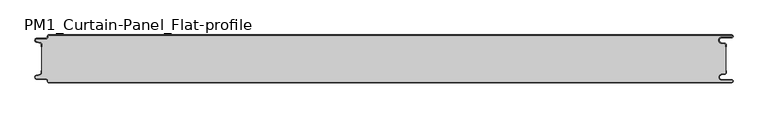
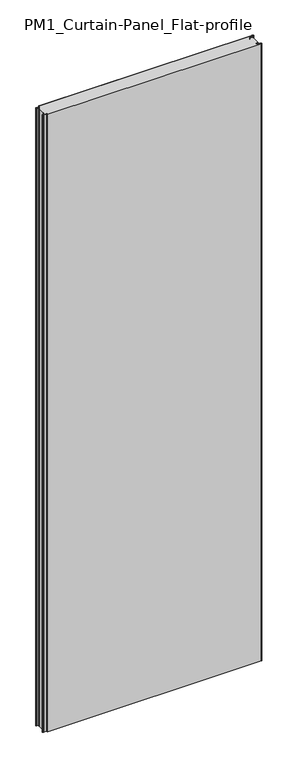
"""IFC4 building model written with IfcOpenShell, lengths in millimetres: plate geometry, PM1_Curtain-Panel_Flat-profile : ACH_PM1_Acoustic-Sectioning-Panel_80M."""

from ifc_helpers import new_model, si_unit, point, frame, frame_2d, origin, origin_with_axes, place, context, project, spatial, polyline, circle_curve, trimmed, segment, composite_curve, outline, extrude, source, transform, mapped, element, save
from ifc_brep_helpers import plane_surface, cylinder_surface, revolved_surface, advanced_brep


def pm1_curtain_panel_flat_profile_d00d88be(model_context):
    return source(origin(), model_context, "Body", "SolidModel", [
        advanced_brep(
        [(583.1, 0.0, 3500.0), (-562.4, 0.0, 3500.0), (-564.4, -2.0, 3500.0), (-564.4, -3.4, 3500.0), (-566.4, -5.4, 3500.0), (-581.9, -5.4, 3500.0), (-582.7098239, -12.5077322, 3500.0), (-576.5500979, -13.929817, 3500.0), (-575.0, -15.878557, 3500.0), (-575.0, -20.0, 3500.0), (-574.2, -20.0, 3500.0), (-574.2, -15.878557, 3500.0), (-576.370137, -13.1503208, 3500.0), (-582.529863, -11.728236, 3500.0), (-581.9, -6.2, 3500.0), (-566.4, -6.2, 3500.0), (-563.6, -3.4, 3500.0), (-563.6, -2.0, 3500.0), (-562.4, -0.8, 3500.0), (583.1, -0.8, 3500.0), (583.1, -4.2, 3500.0), (566.1, -4.2, 3500.0), (565.266489, -13.7270773, 3500.0), (571.7125666, -14.8636942, 3500.0), (573.2, -16.636348, 3500.0), (573.2, -20.0, 3500.0), (574.0, -20.0, 3500.0), (574.0, -16.636348, 3500.0), (571.8514851, -14.0758478, 3500.0), (565.4054075, -12.9392309, 3500.0), (566.1, -5.0, 3500.0), (583.1, -5.0, 3500.0), (585.6, -2.5, 3500.0), (-562.4, 0.0, 0.0), (583.1, 0.0, 0.0), (585.6, -2.5, 0.0), (583.1, -5.0, 0.0), (566.1, -5.0, 0.0), (565.4054075, -12.939231, 0.0), (571.8514851, -14.075848, 0.0), (574.0, -16.636348, 0.0), (574.0, -20.0, 0.0), (573.2, -20.0, 0.0), (573.2, -16.636348, 0.0), (571.7125666, -14.863694, 0.0), (565.266489, -13.7270771, 0.0), (566.1, -4.2, 0.0), (583.1, -4.2, 0.0), (583.1, -0.8, 0.0), (-562.4, -0.8, 0.0), (-563.6, -2.0, 0.0), (-563.6, -3.4, 0.0), (-566.4, -6.2, 0.0), (-581.9, -6.2, 0.0), (-582.529863, -11.7282362, 0.0), (-576.370137, -13.150321, 0.0), (-574.2, -15.878557, 0.0), (-574.2, -20.0, 0.0), (-575.0, -20.0, 0.0), (-575.0, -15.878557, 0.0), (-576.5500978, -13.9298169, 0.0), (-582.7098239, -12.507732, 0.0), (-581.9, -5.4, 0.0), (-566.4, -5.4, 0.0), (-564.4, -3.4, 0.0), (-564.4, -2.0, 0.0)],
        [
            (0, 1),
            (1, 2, circle_curve(frame((-562.4, -2.0, 3500.0), z_axis=(0.0, 0.0, 1.0), x_axis=(1.0, 0.0, 0.0)), 2.0)),
            (2, 3),
            (3, 4, circle_curve(frame((-566.4, -3.4, 3500.0), z_axis=(0.0, 0.0, -1.0), x_axis=(1.0, 0.0, 0.0)), 2.0)),
            (4, 5),
            (5, 6, circle_curve(frame((-581.9, -9.0, 3500.0), z_axis=(0.0, 0.0, 1.0), x_axis=(1.0, 0.0, 0.0)), 3.6)),
            (6, 7),
            (7, 8, circle_curve(frame((-577.0, -15.878557, 3500.0), z_axis=(0.0, 0.0, -1.0), x_axis=(1.0, 0.0, 0.0)), 2.0)),
            (8, 9),
            (9, 10),
            (10, 11),
            (11, 12, circle_curve(frame((-577.0, -15.878557, 3500.0), z_axis=(0.0, 0.0, 1.0), x_axis=(1.0, 0.0, 0.0)), 2.8)),
            (12, 13),
            (13, 14, circle_curve(frame((-581.9, -9.0, 3500.0), z_axis=(0.0, 0.0, -1.0), x_axis=(1.0, 0.0, 0.0)), 2.8)),
            (14, 15),
            (15, 16, circle_curve(frame((-566.4, -3.4, 3500.0), z_axis=(0.0, 0.0, 1.0), x_axis=(1.0, 0.0, 0.0)), 2.8)),
            (16, 17),
            (17, 18, circle_curve(frame((-562.4, -2.0, 3500.0), z_axis=(0.0, 0.0, -1.0), x_axis=(1.0, 0.0, 0.0)), 1.2)),
            (18, 19),
            (19, 20, circle_curve(frame((583.1, -2.5, 3500.0), z_axis=(0.0, 0.0, -1.0), x_axis=(1.0, 0.0, 0.0)), 1.7)),
            (20, 21),
            (21, 22, circle_curve(frame((566.1, -9.0, 3500.0), z_axis=(0.0, 0.0, 1.0), x_axis=(1.0, 0.0, 0.0)), 4.8)),
            (22, 23),
            (23, 24, circle_curve(frame((571.4, -16.636348, 3500.0), z_axis=(0.0, 0.0, -1.0), x_axis=(1.0, 0.0, 0.0)), 1.8)),
            (24, 25),
            (25, 26),
            (26, 27),
            (27, 28, circle_curve(frame((571.4, -16.636348, 3500.0), z_axis=(0.0, 0.0, 1.0), x_axis=(1.0, 0.0, 0.0)), 2.6)),
            (28, 29),
            (29, 30, circle_curve(frame((566.1, -9.0, 3500.0), z_axis=(0.0, 0.0, -1.0), x_axis=(1.0, 0.0, 0.0)), 4.0)),
            (30, 31),
            (31, 32, circle_curve(frame((583.1, -2.5, 3500.0), z_axis=(0.0, 0.0, 1.0), x_axis=(1.0, 0.0, 0.0)), 2.5)),
            (32, 0, circle_curve(frame((583.1, -2.5, 3500.0), z_axis=(0.0, 0.0, 1.0), x_axis=(1.0, 0.0, 0.0)), 2.5)),
            (33, 34),
            (34, 35, circle_curve(frame((583.1, -2.5, 0.0), z_axis=(0.0, 0.0, -1.0), x_axis=(1.0, 0.0, 0.0)), 2.5)),
            (35, 36, circle_curve(frame((583.1, -2.5, 0.0), z_axis=(0.0, 0.0, -1.0), x_axis=(1.0, 0.0, 0.0)), 2.5)),
            (36, 37),
            (37, 38, circle_curve(frame((566.1, -9.0, 0.0), z_axis=(0.0, 0.0, 1.0), x_axis=(1.0, 0.0, 0.0)), 4.0)),
            (38, 39),
            (39, 40, circle_curve(frame((571.4, -16.636348, 0.0), z_axis=(0.0, 0.0, -1.0), x_axis=(1.0, 0.0, 0.0)), 2.6)),
            (40, 41),
            (41, 42),
            (42, 43),
            (43, 44, circle_curve(frame((571.4, -16.636348, 0.0), z_axis=(0.0, 0.0, 1.0), x_axis=(1.0, 0.0, 0.0)), 1.8)),
            (44, 45),
            (45, 46, circle_curve(frame((566.1, -9.0, 0.0), z_axis=(0.0, 0.0, -1.0), x_axis=(1.0, 0.0, 0.0)), 4.8)),
            (46, 47),
            (47, 48, circle_curve(frame((583.1, -2.5, 0.0), z_axis=(0.0, 0.0, 1.0), x_axis=(1.0, 0.0, 0.0)), 1.7)),
            (48, 49),
            (49, 50, circle_curve(frame((-562.4, -2.0, 0.0), z_axis=(0.0, 0.0, 1.0), x_axis=(1.0, 0.0, 0.0)), 1.2)),
            (50, 51),
            (51, 52, circle_curve(frame((-566.4, -3.4, 0.0), z_axis=(0.0, 0.0, -1.0), x_axis=(1.0, 0.0, 0.0)), 2.8)),
            (52, 53),
            (53, 54, circle_curve(frame((-581.9, -9.0, 0.0), z_axis=(0.0, 0.0, 1.0), x_axis=(1.0, 0.0, 0.0)), 2.8)),
            (54, 55),
            (55, 56, circle_curve(frame((-577.0, -15.878557, 0.0), z_axis=(0.0, 0.0, -1.0), x_axis=(1.0, 0.0, 0.0)), 2.8)),
            (56, 57),
            (57, 58),
            (58, 59),
            (59, 60, circle_curve(frame((-577.0, -15.878557, 0.0), z_axis=(0.0, 0.0, 1.0), x_axis=(1.0, 0.0, 0.0)), 2.0)),
            (60, 61),
            (61, 62, circle_curve(frame((-581.9, -9.0, 0.0), z_axis=(0.0, 0.0, -1.0), x_axis=(1.0, 0.0, 0.0)), 3.6)),
            (62, 63),
            (63, 64, circle_curve(frame((-566.4, -3.4, 0.0), z_axis=(0.0, 0.0, 1.0), x_axis=(1.0, 0.0, 0.0)), 2.0)),
            (64, 65),
            (65, 33, circle_curve(frame((-562.4, -2.0, 0.0), z_axis=(0.0, 0.0, -1.0), x_axis=(1.0, 0.0, 0.0)), 2.0)),
            (1, 33),
            (65, 2),
            (64, 3),
            (63, 4),
            (62, 5),
            (61, 6),
            (60, 7),
            (59, 8),
            (58, 9),
            (57, 10),
            (56, 11),
            (55, 12),
            (54, 13),
            (53, 14),
            (52, 15),
            (51, 16),
            (50, 17),
            (49, 18),
            (48, 19),
            (47, 20),
            (46, 21),
            (45, 22),
            (44, 23),
            (43, 24),
            (42, 25),
            (41, 26),
            (40, 27),
            (39, 28),
            (38, 29),
            (37, 30),
            (36, 31),
            (34, 0),
        ],
        [
            plane_surface(frame((-575.0, 0.0, 3500.0), z_axis=(0.0, 0.0, 1.0), x_axis=(0.0, 1.0, 0.0))),
            plane_surface(frame((-575.0, 0.0, 0.0), z_axis=(0.0, 0.0, -1.0), x_axis=(0.0, 1.0, 0.0))),
            cylinder_surface(frame((-562.4, -2.0, 3500.0), z_axis=(0.0, 0.0, 1.0), x_axis=(1.0, 0.0, 0.0)), 2.0),
            plane_surface(frame((-564.4, -2.0, 3500.0), z_axis=(-1.0, 0.0, 0.0), x_axis=(0.0, 0.0, -1.0))),
            revolved_surface(polyline([(-564.4, -3.4, 0.0), (-564.4, -3.4, 3500.0)]), (-566.4, -3.4, 3500.0), (0.0, 0.0, -1.0)),
            plane_surface(frame((-566.4, -5.4, 3500.0), z_axis=(0.0, 1.0, 0.0), x_axis=(0.0, 0.0, -1.0))),
            cylinder_surface(frame((-581.9, -9.0, 3500.0), z_axis=(0.0, 0.0, 1.0), x_axis=(1.0, 0.0, 0.0)), 3.6),
            plane_surface(frame((-582.7098239, -12.507732, 3500.0), z_axis=(-0.2249510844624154, -0.9743700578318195, 0.0), x_axis=(0.0, 0.0, -1.0))),
            revolved_surface(polyline([(-575.0, -15.878557, 0.0), (-575.0, -15.878557, 3500.0)]), (-577.0, -15.878557, 3500.0), (0.0, 0.0, -1.0)),
            plane_surface(frame((-575.0, -15.878557, 3500.0), z_axis=(-1.0, 0.0, 0.0), x_axis=(0.0, 0.0, -1.0))),
            plane_surface(frame((-575.0, -20.0, 3500.0), z_axis=(0.0, -1.0, 0.0), x_axis=(0.0, 0.0, -1.0))),
            plane_surface(frame((-574.2, -20.0, 3500.0), z_axis=(1.0, 0.0, 0.0), x_axis=(0.0, 0.0, -1.0))),
            cylinder_surface(frame((-577.0, -15.878557, 3500.0), z_axis=(0.0, 0.0, 1.0), x_axis=(1.0, 0.0, 0.0)), 2.8),
            plane_surface(frame((-576.370137, -13.150321, 3500.0), z_axis=(0.22495108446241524, 0.9743700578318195, 0.0), x_axis=(0.0, 0.0, -1.0))),
            revolved_surface(polyline([(-579.1, -9.0, 0.0), (-579.1, -9.0, 3500.0)]), (-581.9, -9.0, 3500.0), (0.0, 0.0, -1.0)),
            plane_surface(frame((-581.9, -6.2, 3500.0), z_axis=(0.0, -1.0, 0.0), x_axis=(0.0, 0.0, -1.0))),
            cylinder_surface(frame((-566.4, -3.4, 3500.0), z_axis=(0.0, 0.0, 1.0), x_axis=(1.0, 0.0, 0.0)), 2.8),
            plane_surface(frame((-563.6, -3.4, 3500.0), z_axis=(1.0, 0.0, 0.0), x_axis=(0.0, 0.0, -1.0))),
            revolved_surface(polyline([(-561.1999999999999, -2.0, 0.0), (-561.1999999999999, -2.0, 3500.0)]), (-562.4, -2.0, 3500.0), (0.0, 0.0, -1.0)),
            plane_surface(frame((560.890897, -0.8, 3500.0), z_axis=(0.0, -1.0, 0.0), x_axis=(0.0, 0.0, -1.0))),
            revolved_surface(polyline([(584.8000000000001, -2.5, 0.0), (584.8000000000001, -2.5, 3500.0)]), (583.1, -2.5, 3500.0), (0.0, 0.0, -1.0)),
            plane_surface(frame((583.1, -4.2, 3500.0), z_axis=(0.0, 1.0, 0.0), x_axis=(0.0, 0.0, -1.0))),
            cylinder_surface(frame((566.1, -9.0, 3500.0), z_axis=(0.0, 0.0, 1.0), x_axis=(1.0, 0.0, 0.0)), 4.8),
            plane_surface(frame((565.266489, -13.7270771, 3500.0), z_axis=(-0.1736481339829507, -0.9848077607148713, 0.0), x_axis=(0.0, 0.0, -1.0))),
            revolved_surface(polyline([(573.1999999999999, -16.636348, 0.0), (573.1999999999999, -16.636348, 3500.0)]), (571.4, -16.636348, 3500.0), (0.0, 0.0, -1.0)),
            plane_surface(frame((573.2, -16.636348, 3500.0), z_axis=(-1.0, 0.0, 0.0), x_axis=(0.0, 0.0, -1.0))),
            plane_surface(frame((573.2, -20.0, 3500.0), z_axis=(0.0, -1.0, 0.0), x_axis=(0.0, 0.0, -1.0))),
            plane_surface(frame((574.0, -20.0, 3500.0), z_axis=(1.0, 0.0, 0.0), x_axis=(0.0, 0.0, -1.0))),
            cylinder_surface(frame((571.4, -16.636348, 3500.0), z_axis=(0.0, 0.0, 1.0), x_axis=(1.0, 0.0, 0.0)), 2.6),
            plane_surface(frame((571.8514851, -14.075848, 3500.0), z_axis=(0.17364813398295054, 0.9848077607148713, 0.0), x_axis=(0.0, 0.0, -1.0))),
            revolved_surface(polyline([(570.1, -9.0, 0.0), (570.1, -9.0, 3500.0)]), (566.1, -9.0, 3500.0), (0.0, 0.0, -1.0)),
            plane_surface(frame((566.1, -5.0, 3500.0), z_axis=(0.0, -1.0, 0.0), x_axis=(0.0, 0.0, -1.0))),
            cylinder_surface(frame((583.1, -2.5, 3500.0), z_axis=(0.0, 0.0, 1.0), x_axis=(1.0, 0.0, 0.0)), 2.5),
            plane_surface(frame((510.5961529, 0.0, 3500.0), z_axis=(0.0, 1.0, 0.0), x_axis=(0.0, 0.0, -1.0))),
        ],
        [
            (0, [[1, 2, 3, 4, 5, 6, 7, 8, 9, 10, 11, 12, 13, 14, 15, 16, 17, 18, 19, 20, 21, 22, 23, 24, 25, 26, 27, 28, 29, 30, 31, 32, 33]]),
            (1, [[34, 35, 36, 37, 38, 39, 40, 41, 42, 43, 44, 45, 46, 47, 48, 49, 50, 51, 52, 53, 54, 55, 56, 57, 58, 59, 60, 61, 62, 63, 64, 65, 66]]),
            (2, [[-2, 67, -66, 68]]),
            (3, [[-3, -68, -65, 69]]),
            (4, [[-4, -69, -64, 70]]),
            (5, [[-5, -70, -63, 71]]),
            (6, [[-6, -71, -62, 72]]),
            (7, [[-7, -72, -61, 73]]),
            (8, [[-8, -73, -60, 74]]),
            (9, [[-9, -74, -59, 75]]),
            (10, [[-10, -75, -58, 76]]),
            (11, [[-11, -76, -57, 77]]),
            (12, [[-12, -77, -56, 78]]),
            (13, [[-13, -78, -55, 79]]),
            (14, [[-14, -79, -54, 80]]),
            (15, [[-15, -80, -53, 81]]),
            (16, [[-16, -81, -52, 82]]),
            (17, [[-17, -82, -51, 83]]),
            (18, [[-18, -83, -50, 84]]),
            (19, [[-19, -84, -49, 85]]),
            (20, [[-20, -85, -48, 86]]),
            (21, [[-21, -86, -47, 87]]),
            (22, [[-22, -87, -46, 88]]),
            (23, [[-23, -88, -45, 89]]),
            (24, [[-24, -89, -44, 90]]),
            (25, [[-25, -90, -43, 91]]),
            (26, [[-26, -91, -42, 92]]),
            (27, [[-27, -92, -41, 93]]),
            (28, [[-28, -93, -40, 94]]),
            (29, [[-29, -94, -39, 95]]),
            (30, [[-30, -95, -38, 96]]),
            (31, [[-31, -96, -37, 97]]),
            (32, [[-97, -36, -35, 98, -33, -32]]),
            (33, [[-1, -98, -34, -67]]),
        ],
    ),
        extrude(outline(composite_curve([segment(polyline([(-574.2, -64.1214426), (-574.2, -15.8785573)]), True, "CONTINUOUS"), segment(trimmed(circle_curve(frame_2d((-577.0, -15.8785573)), 2.8), [point((-574.2, -15.8785573))], [point((-576.370137, -13.1503212))], True, "CARTESIAN"), True, "CONTINUOUS"), segment(polyline([(-576.370137, -13.1503212), (-582.5298631, -11.7282362)]), True, "CONTINUOUS"), segment(trimmed(circle_curve(frame_2d((-581.9, -9.0)), 2.8), [point((-582.5298631, -11.7282362))], [point((-581.9, -6.2))], False, "CARTESIAN"), True, "CONTINUOUS"), segment(polyline([(-581.9, -6.2), (-566.4000001, -6.2)]), True, "CONTINUOUS"), segment(trimmed(circle_curve(frame_2d((-566.4000001, -3.4)), 2.8), [point((-566.4000001, -6.2))], [point((-563.6000001, -3.4))], True, "CARTESIAN"), True, "CONTINUOUS"), segment(polyline([(-563.6000001, -3.4), (-563.6000001, -2.0)]), True, "CONTINUOUS"), segment(trimmed(circle_curve(frame_2d((-562.4000001, -2.0)), 1.2), [point((-563.6000001, -2.0))], [point((-562.4000001, -0.8))], False, "CARTESIAN"), True, "CONTINUOUS"), segment(polyline([(-562.4000001, -0.8), (583.1, -0.8)]), True, "CONTINUOUS"), segment(trimmed(circle_curve(frame_2d((583.1, -2.5)), 1.7), [point((583.1, -0.8))], [point((583.1, -4.2))], False, "CARTESIAN"), True, "CONTINUOUS"), segment(polyline([(583.1, -4.2), (566.1, -4.2)]), True, "CONTINUOUS"), segment(trimmed(circle_curve(frame_2d((566.1, -9.0)), 4.8), [point((566.1, -4.2))], [point((565.2664883, -13.7270771))], True, "CARTESIAN"), True, "CONTINUOUS"), segment(polyline([(565.2664883, -13.7270771), (571.7125668, -14.8636953)]), True, "CONTINUOUS"), segment(trimmed(circle_curve(frame_2d((571.4, -16.6363492)), 1.8), [point((571.7125668, -14.8636953))], [point((573.2, -16.6363492))], False, "CARTESIAN"), True, "CONTINUOUS"), segment(polyline([(573.2, -16.6363492), (573.2, -63.3636508)]), True, "CONTINUOUS"), segment(trimmed(circle_curve(frame_2d((571.4, -63.3636508)), 1.8), [point((573.2, -63.3636508))], [point((571.7125668, -65.1363047))], False, "CARTESIAN"), True, "CONTINUOUS"), segment(polyline([(571.7125668, -65.1363047), (565.2664883, -66.2729229)]), True, "CONTINUOUS"), segment(trimmed(circle_curve(frame_2d((566.1, -71.0)), 4.8), [point((565.2664883, -66.2729229))], [point((566.1, -75.8))], True, "CARTESIAN"), True, "CONTINUOUS"), segment(polyline([(566.1, -75.8), (583.1, -75.8)]), True, "CONTINUOUS"), segment(trimmed(circle_curve(frame_2d((583.1, -77.5)), 1.7), [point((583.1, -75.8))], [point((583.1, -79.2))], False, "CARTESIAN"), True, "CONTINUOUS"), segment(polyline([(583.1, -79.2), (-562.4000001, -79.2)]), True, "CONTINUOUS"), segment(trimmed(circle_curve(frame_2d((-562.4000001, -78.0)), 1.2), [point((-562.4000001, -79.2))], [point((-563.6000001, -78.0))], False, "CARTESIAN"), True, "CONTINUOUS"), segment(polyline([(-563.6000001, -78.0), (-563.6000001, -76.6)]), True, "CONTINUOUS"), segment(trimmed(circle_curve(frame_2d((-566.4000001, -76.6)), 2.8), [point((-563.6000001, -76.6))], [point((-566.4000001, -73.8))], True, "CARTESIAN"), True, "CONTINUOUS"), segment(polyline([(-566.4000001, -73.8), (-581.9, -73.8)]), True, "CONTINUOUS"), segment(trimmed(circle_curve(frame_2d((-581.9, -71.0)), 2.8), [point((-581.9, -73.8))], [point((-582.5298631, -68.2717638))], False, "CARTESIAN"), True, "CONTINUOUS"), segment(polyline([(-582.5298631, -68.2717638), (-576.370137, -66.8496788)]), True, "CONTINUOUS"), segment(trimmed(circle_curve(frame_2d((-577.0, -64.1214426)), 2.8), [point((-576.370137, -66.8496788))], [point((-574.2, -64.1214426))], True, "CARTESIAN"), True, "CONTINUOUS")], self_intersect=False)), origin_with_axes(), (0.0, 0.0, 1.0), 3500.0),
        advanced_brep(
        [(-562.4, -80.0, 3500.0), (583.1, -80.0, 3500.0), (585.6, -77.5, 3500.0), (583.1, -75.0, 3500.0), (566.1, -75.0, 3500.0), (565.4054075, -67.060769, 3500.0), (571.8514851, -65.924152, 3500.0), (574.0, -63.363652, 3500.0), (574.0, -60.0, 3500.0), (573.2, -60.0, 3500.0), (573.2, -63.363652, 3500.0), (571.7125666, -65.136306, 3500.0), (565.266489, -66.2729229, 3500.0), (566.1, -75.8, 3500.0), (583.1, -75.8, 3500.0), (583.1, -79.2, 3500.0), (-562.4, -79.2, 3500.0), (-563.6, -78.0, 3500.0), (-563.6, -76.6, 3500.0), (-566.4, -73.8, 3500.0), (-581.9, -73.8, 3500.0), (-582.529863, -68.2717638, 3500.0), (-576.370137, -66.849679, 3500.0), (-574.2, -64.121443, 3500.0), (-574.2, -60.0, 3500.0), (-575.0, -60.0, 3500.0), (-575.0, -64.121443, 3500.0), (-576.5500978, -66.0701831, 3500.0), (-582.7098239, -67.492268, 3500.0), (-581.9, -74.6, 3500.0), (-566.4, -74.6, 3500.0), (-564.4, -76.6, 3500.0), (-564.4, -78.0, 3500.0), (583.1, -80.0, 0.0), (-562.4, -80.0, 0.0), (-564.4, -78.0, 0.0), (-564.4, -76.6, 0.0), (-566.4, -74.6, 0.0), (-581.9, -74.6, 0.0), (-582.7098239, -67.4922678, 0.0), (-576.5500979, -66.070183, 0.0), (-575.0, -64.121443, 0.0), (-575.0, -60.0, 0.0), (-574.2, -60.0, 0.0), (-574.2, -64.121443, 0.0), (-576.370137, -66.8496792, 0.0), (-582.529863, -68.271764, 0.0), (-581.9, -73.8, 0.0), (-566.4, -73.8, 0.0), (-563.6, -76.6, 0.0), (-563.6, -78.0, 0.0), (-562.4, -79.2, 0.0), (583.1, -79.2, 0.0), (583.1, -75.8, 0.0), (566.1, -75.8, 0.0), (565.266489, -66.2729227, 0.0), (571.7125666, -65.1363058, 0.0), (573.2, -63.363652, 0.0), (573.2, -60.0, 0.0), (574.0, -60.0, 0.0), (574.0, -63.363652, 0.0), (571.8514851, -65.9241522, 0.0), (565.4054075, -67.0607691, 0.0), (566.1, -75.0, 0.0), (583.1, -75.0, 0.0), (585.6, -77.5, 0.0)],
        [
            (0, 1),
            (1, 2, circle_curve(frame((583.1, -77.5, 3500.0), z_axis=(0.0, 0.0, 1.0), x_axis=(1.0, 0.0, 0.0)), 2.5)),
            (2, 3, circle_curve(frame((583.1, -77.5, 3500.0), z_axis=(0.0, 0.0, 1.0), x_axis=(1.0, 0.0, 0.0)), 2.5)),
            (3, 4),
            (4, 5, circle_curve(frame((566.1, -71.0, 3500.0), z_axis=(0.0, 0.0, -1.0), x_axis=(1.0, 0.0, 0.0)), 4.0)),
            (5, 6),
            (6, 7, circle_curve(frame((571.4, -63.363652, 3500.0), z_axis=(0.0, 0.0, 1.0), x_axis=(1.0, 0.0, 0.0)), 2.6)),
            (7, 8),
            (8, 9),
            (9, 10),
            (10, 11, circle_curve(frame((571.4, -63.363652, 3500.0), z_axis=(0.0, 0.0, -1.0), x_axis=(1.0, 0.0, 0.0)), 1.8)),
            (11, 12),
            (12, 13, circle_curve(frame((566.1, -71.0, 3500.0), z_axis=(0.0, 0.0, 1.0), x_axis=(1.0, 0.0, 0.0)), 4.8)),
            (13, 14),
            (14, 15, circle_curve(frame((583.1, -77.5, 3500.0), z_axis=(0.0, 0.0, -1.0), x_axis=(1.0, 0.0, 0.0)), 1.7)),
            (15, 16),
            (16, 17, circle_curve(frame((-562.4, -78.0, 3500.0), z_axis=(0.0, 0.0, -1.0), x_axis=(1.0, 0.0, 0.0)), 1.2)),
            (17, 18),
            (18, 19, circle_curve(frame((-566.4, -76.6, 3500.0), z_axis=(0.0, 0.0, 1.0), x_axis=(1.0, 0.0, 0.0)), 2.8)),
            (19, 20),
            (20, 21, circle_curve(frame((-581.9, -71.0, 3500.0), z_axis=(0.0, 0.0, -1.0), x_axis=(1.0, 0.0, 0.0)), 2.8)),
            (21, 22),
            (22, 23, circle_curve(frame((-577.0, -64.121443, 3500.0), z_axis=(0.0, 0.0, 1.0), x_axis=(1.0, 0.0, 0.0)), 2.8)),
            (23, 24),
            (24, 25),
            (25, 26),
            (26, 27, circle_curve(frame((-577.0, -64.121443, 3500.0), z_axis=(0.0, 0.0, -1.0), x_axis=(1.0, 0.0, 0.0)), 2.0)),
            (27, 28),
            (28, 29, circle_curve(frame((-581.9, -71.0, 3500.0), z_axis=(0.0, 0.0, 1.0), x_axis=(1.0, 0.0, 0.0)), 3.6)),
            (29, 30),
            (30, 31, circle_curve(frame((-566.4, -76.6, 3500.0), z_axis=(0.0, 0.0, -1.0), x_axis=(1.0, 0.0, 0.0)), 2.0)),
            (31, 32),
            (32, 0, circle_curve(frame((-562.4, -78.0, 3500.0), z_axis=(0.0, 0.0, 1.0), x_axis=(1.0, 0.0, 0.0)), 2.0)),
            (33, 34),
            (34, 35, circle_curve(frame((-562.4, -78.0, 0.0), z_axis=(0.0, 0.0, -1.0), x_axis=(1.0, 0.0, 0.0)), 2.0)),
            (35, 36),
            (36, 37, circle_curve(frame((-566.4, -76.6, 0.0), z_axis=(0.0, 0.0, 1.0), x_axis=(1.0, 0.0, 0.0)), 2.0)),
            (37, 38),
            (38, 39, circle_curve(frame((-581.9, -71.0, 0.0), z_axis=(0.0, 0.0, -1.0), x_axis=(1.0, 0.0, 0.0)), 3.6)),
            (39, 40),
            (40, 41, circle_curve(frame((-577.0, -64.121443, 0.0), z_axis=(0.0, 0.0, 1.0), x_axis=(1.0, 0.0, 0.0)), 2.0)),
            (41, 42),
            (42, 43),
            (43, 44),
            (44, 45, circle_curve(frame((-577.0, -64.121443, 0.0), z_axis=(0.0, 0.0, -1.0), x_axis=(1.0, 0.0, 0.0)), 2.8)),
            (45, 46),
            (46, 47, circle_curve(frame((-581.9, -71.0, 0.0), z_axis=(0.0, 0.0, 1.0), x_axis=(1.0, 0.0, 0.0)), 2.8)),
            (47, 48),
            (48, 49, circle_curve(frame((-566.4, -76.6, 0.0), z_axis=(0.0, 0.0, -1.0), x_axis=(1.0, 0.0, 0.0)), 2.8)),
            (49, 50),
            (50, 51, circle_curve(frame((-562.4, -78.0, 0.0), z_axis=(0.0, 0.0, 1.0), x_axis=(1.0, 0.0, 0.0)), 1.2)),
            (51, 52),
            (52, 53, circle_curve(frame((583.1, -77.5, 0.0), z_axis=(0.0, 0.0, 1.0), x_axis=(1.0, 0.0, 0.0)), 1.7)),
            (53, 54),
            (54, 55, circle_curve(frame((566.1, -71.0, 0.0), z_axis=(0.0, 0.0, -1.0), x_axis=(1.0, 0.0, 0.0)), 4.8)),
            (55, 56),
            (56, 57, circle_curve(frame((571.4, -63.363652, 0.0), z_axis=(0.0, 0.0, 1.0), x_axis=(1.0, 0.0, 0.0)), 1.8)),
            (57, 58),
            (58, 59),
            (59, 60),
            (60, 61, circle_curve(frame((571.4, -63.363652, 0.0), z_axis=(0.0, 0.0, -1.0), x_axis=(1.0, 0.0, 0.0)), 2.6)),
            (61, 62),
            (62, 63, circle_curve(frame((566.1, -71.0, 0.0), z_axis=(0.0, 0.0, 1.0), x_axis=(1.0, 0.0, 0.0)), 4.0)),
            (63, 64),
            (64, 65, circle_curve(frame((583.1, -77.5, 0.0), z_axis=(0.0, 0.0, -1.0), x_axis=(1.0, 0.0, 0.0)), 2.5)),
            (65, 33, circle_curve(frame((583.1, -77.5, 0.0), z_axis=(0.0, 0.0, -1.0), x_axis=(1.0, 0.0, 0.0)), 2.5)),
            (0, 34),
            (33, 1),
            (64, 3),
            (63, 4),
            (62, 5),
            (61, 6),
            (60, 7),
            (59, 8),
            (58, 9),
            (57, 10),
            (56, 11),
            (55, 12),
            (54, 13),
            (53, 14),
            (52, 15),
            (51, 16),
            (50, 17),
            (49, 18),
            (48, 19),
            (47, 20),
            (46, 21),
            (45, 22),
            (44, 23),
            (43, 24),
            (42, 25),
            (41, 26),
            (40, 27),
            (39, 28),
            (38, 29),
            (37, 30),
            (36, 31),
            (35, 32),
        ],
        [
            plane_surface(frame((-575.0, -80.0, 3500.0), z_axis=(0.0, 0.0, 1.0), x_axis=(0.0, 1.0, 0.0))),
            plane_surface(frame((-575.0, -80.0, 0.0), z_axis=(0.0, 0.0, -1.0), x_axis=(0.0, 1.0, 0.0))),
            plane_surface(frame((560.890897, -80.0, 3500.0), z_axis=(0.0, -1.0, 0.0), x_axis=(0.0, 0.0, -1.0))),
            cylinder_surface(frame((583.1, -77.5, 3500.0), z_axis=(0.0, 0.0, 1.0), x_axis=(1.0, 0.0, 0.0)), 2.5),
            plane_surface(frame((583.1, -75.0, 3500.0), z_axis=(0.0, 1.0, 0.0), x_axis=(0.0, 0.0, -1.0))),
            revolved_surface(polyline([(570.1, -71.0, 0.0), (570.1, -71.0, 3500.0)]), (566.1, -71.0, 3500.0), (0.0, 0.0, -1.0)),
            plane_surface(frame((565.4054075, -67.0607691, 3500.0), z_axis=(0.17364813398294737, -0.9848077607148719, 0.0), x_axis=(0.0, 0.0, -1.0))),
            cylinder_surface(frame((571.4, -63.363652, 3500.0), z_axis=(0.0, 0.0, 1.0), x_axis=(1.0, 0.0, 0.0)), 2.6),
            plane_surface(frame((574.0, -63.363652, 3500.0), z_axis=(1.0, 0.0, 0.0), x_axis=(0.0, 0.0, -1.0))),
            plane_surface(frame((574.0, -60.0, 3500.0), z_axis=(0.0, 1.0, 0.0), x_axis=(0.0, 0.0, -1.0))),
            plane_surface(frame((573.2, -60.0, 3500.0), z_axis=(-1.0, 0.0, 0.0), x_axis=(0.0, 0.0, -1.0))),
            revolved_surface(polyline([(573.1999999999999, -63.363652, 0.0), (573.1999999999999, -63.363652, 3500.0)]), (571.4, -63.363652, 3500.0), (0.0, 0.0, -1.0)),
            plane_surface(frame((571.7125666, -65.1363058, 3500.0), z_axis=(-0.17364813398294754, 0.9848077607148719, 0.0), x_axis=(0.0, 0.0, -1.0))),
            cylinder_surface(frame((566.1, -71.0, 3500.0), z_axis=(0.0, 0.0, 1.0), x_axis=(1.0, 0.0, 0.0)), 4.8),
            plane_surface(frame((566.1, -75.8, 3500.0), z_axis=(0.0, -1.0, 0.0), x_axis=(0.0, 0.0, -1.0))),
            revolved_surface(polyline([(584.8000000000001, -77.5, 0.0), (584.8000000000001, -77.5, 3500.0)]), (583.1, -77.5, 3500.0), (0.0, 0.0, -1.0)),
            plane_surface(frame((510.8105122, -79.2, 3500.0), z_axis=(0.0, 1.0, 0.0), x_axis=(0.0, 0.0, -1.0))),
            revolved_surface(polyline([(-561.1999999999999, -78.0, 0.0), (-561.1999999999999, -78.0, 3500.0)]), (-562.4, -78.0, 3500.0), (0.0, 0.0, -1.0)),
            plane_surface(frame((-563.6, -78.0, 3500.0), z_axis=(1.0, 0.0, 0.0), x_axis=(0.0, 0.0, -1.0))),
            cylinder_surface(frame((-566.4, -76.6, 3500.0), z_axis=(0.0, 0.0, 1.0), x_axis=(1.0, 0.0, 0.0)), 2.8),
            plane_surface(frame((-566.4, -73.8, 3500.0), z_axis=(0.0, 1.0, 0.0), x_axis=(0.0, 0.0, -1.0))),
            revolved_surface(polyline([(-579.1, -71.0, 0.0), (-579.1, -71.0, 3500.0)]), (-581.9, -71.0, 3500.0), (0.0, 0.0, -1.0)),
            plane_surface(frame((-582.529863, -68.271764, 3500.0), z_axis=(0.2249510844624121, -0.9743700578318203, 0.0), x_axis=(0.0, 0.0, -1.0))),
            cylinder_surface(frame((-577.0, -64.121443, 3500.0), z_axis=(0.0, 0.0, 1.0), x_axis=(1.0, 0.0, 0.0)), 2.8),
            plane_surface(frame((-574.2, -64.121443, 3500.0), z_axis=(1.0, 0.0, 0.0), x_axis=(0.0, 0.0, -1.0))),
            plane_surface(frame((-574.2, -60.0, 3500.0), z_axis=(0.0, 1.0, 0.0), x_axis=(0.0, 0.0, -1.0))),
            plane_surface(frame((-575.0, -60.0, 3500.0), z_axis=(-1.0, 0.0, 0.0), x_axis=(0.0, 0.0, -1.0))),
            revolved_surface(polyline([(-575.0, -64.121443, 0.0), (-575.0, -64.121443, 3500.0)]), (-577.0, -64.121443, 3500.0), (0.0, 0.0, -1.0)),
            plane_surface(frame((-576.5500979, -66.070183, 3500.0), z_axis=(-0.22495108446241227, 0.9743700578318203, 0.0), x_axis=(0.0, 0.0, -1.0))),
            cylinder_surface(frame((-581.9, -71.0, 3500.0), z_axis=(0.0, 0.0, 1.0), x_axis=(1.0, 0.0, 0.0)), 3.6),
            plane_surface(frame((-581.9, -74.6, 3500.0), z_axis=(0.0, -1.0, 0.0), x_axis=(0.0, 0.0, -1.0))),
            revolved_surface(polyline([(-564.4, -76.6, 0.0), (-564.4, -76.6, 3500.0)]), (-566.4, -76.6, 3500.0), (0.0, 0.0, -1.0)),
            plane_surface(frame((-564.4, -76.6, 3500.0), z_axis=(-1.0, 0.0, 0.0), x_axis=(0.0, 0.0, -1.0))),
            cylinder_surface(frame((-562.4, -78.0, 3500.0), z_axis=(0.0, 0.0, 1.0), x_axis=(1.0, 0.0, 0.0)), 2.0),
        ],
        [
            (0, [[1, 2, 3, 4, 5, 6, 7, 8, 9, 10, 11, 12, 13, 14, 15, 16, 17, 18, 19, 20, 21, 22, 23, 24, 25, 26, 27, 28, 29, 30, 31, 32, 33]]),
            (1, [[34, 35, 36, 37, 38, 39, 40, 41, 42, 43, 44, 45, 46, 47, 48, 49, 50, 51, 52, 53, 54, 55, 56, 57, 58, 59, 60, 61, 62, 63, 64, 65, 66]]),
            (2, [[-1, 67, -34, 68]]),
            (3, [[-68, -66, -65, 69, -3, -2]]),
            (4, [[-4, -69, -64, 70]]),
            (5, [[-5, -70, -63, 71]]),
            (6, [[-6, -71, -62, 72]]),
            (7, [[-7, -72, -61, 73]]),
            (8, [[-8, -73, -60, 74]]),
            (9, [[-9, -74, -59, 75]]),
            (10, [[-10, -75, -58, 76]]),
            (11, [[-11, -76, -57, 77]]),
            (12, [[-12, -77, -56, 78]]),
            (13, [[-13, -78, -55, 79]]),
            (14, [[-14, -79, -54, 80]]),
            (15, [[-15, -80, -53, 81]]),
            (16, [[-16, -81, -52, 82]]),
            (17, [[-17, -82, -51, 83]]),
            (18, [[-18, -83, -50, 84]]),
            (19, [[-19, -84, -49, 85]]),
            (20, [[-20, -85, -48, 86]]),
            (21, [[-21, -86, -47, 87]]),
            (22, [[-22, -87, -46, 88]]),
            (23, [[-23, -88, -45, 89]]),
            (24, [[-24, -89, -44, 90]]),
            (25, [[-25, -90, -43, 91]]),
            (26, [[-26, -91, -42, 92]]),
            (27, [[-27, -92, -41, 93]]),
            (28, [[-28, -93, -40, 94]]),
            (29, [[-29, -94, -39, 95]]),
            (30, [[-30, -95, -38, 96]]),
            (31, [[-31, -96, -37, 97]]),
            (32, [[-32, -97, -36, 98]]),
            (33, [[-33, -98, -35, -67]]),
        ],
    ),
    ])


if __name__ == "__main__":
    model = new_model("IFC4")
    model_context = context("Model", 3, world=origin())
    ifc_project = project(units=[si_unit("LENGTHUNIT", "METRE", prefix="MILLI")], contexts=[model_context])
    site = spatial("IfcSite", under=ifc_project)
    building = spatial("IfcBuilding", under=site)
    placement = place(None, origin())
    pm1_curtain_panel_flat_profile_shape = pm1_curtain_panel_flat_profile_d00d88be(model_context)
    element("IfcPlate", 1, ObjectType="PM1_Curtain-Panel_Flat-profile : ACH_PM1_Acoustic-Sectioning-Panel_80M", at=placement, inside=building, context=model_context, shape_type="MappedRepresentation", body=[
        mapped(pm1_curtain_panel_flat_profile_shape, transform((0.0, 0.0, 0.0), x_axis=(1.0, 0.0, 0.0), y_axis=(0.0, 1.0, 0.0), z_axis=(0.0, 0.0, 1.0))),
    ])
    save(model, "model.ifc")
